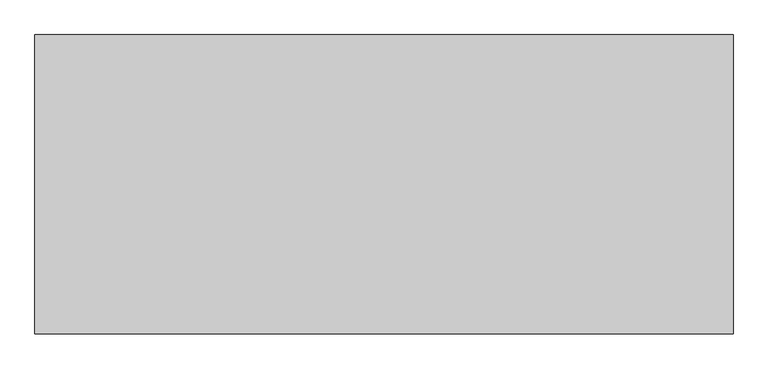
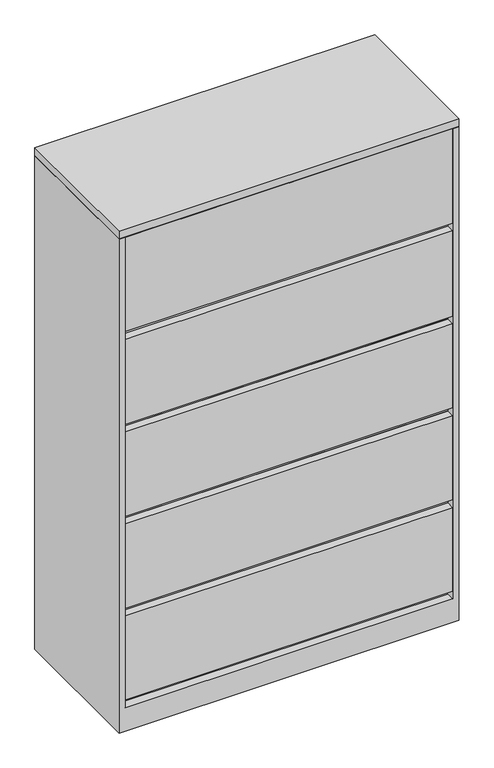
"""IFC4 building model written with IfcOpenShell, lengths in millimetres: furniture geometry, Steelcase - 900 Series - Storage - Lateral File With Roll Out Shelf - Flush Steel : 65 1/2H x 42W."""

from ifc_helpers import new_model, si_unit, frame, origin, place, context, project, spatial, polyline, outline, extrude, faceted_brep, source, transform, mapped, element, save


def furniture_8acac2fa(model_context):
    return source(origin(), model_context, "Body", "SolidModel", [
        faceted_brep([(1047.4960184, -25.2721219, 1636.776), (1047.4960184, -457.2, 1636.776), (1066.8, -457.2, 1636.776), (1066.8, 0.0, 1636.776), (0.0, 0.0, 1636.776), (0.0, -457.2, 1636.776), (19.3039998, -457.2, 1636.776), (19.3039998, -25.2721219, 1636.776), (0.0, -457.2, 0.0), (0.0, 0.0, 0.0), (1066.8, 0.0, 0.0), (1066.8, -457.2, 0.0), (1047.4960184, -25.2721219, 406.7048), (1047.4960184, -431.800255, 406.7048), (1047.4960184, -431.800255, 381.254), (1047.4960184, -25.2721219, 381.254), (1047.4960184, -25.2721219, 103.3780013), (1047.4960184, -430.275847, 103.3780013), (1047.4960184, -430.275847, 77.9779983), (1047.4960184, -457.2, 77.9779983), (19.3039998, -457.2, 77.9779983), (19.3039998, -430.275847, 77.9779983), (19.3039998, -430.275847, 103.3780013), (19.3039998, -25.2721219, 103.3780013), (19.3039998, -25.2721219, 381.254), (19.3039998, -431.800255, 381.254), (19.3039998, -431.800255, 406.7048), (19.3039998, -25.2721219, 406.7048)], [[[0, 1, 2, 3, 4, 5, 6, 7]], [[8, 9, 10, 11]], [[1, 0, 12, 13, 14, 15, 16, 17, 18, 19]], [[2, 1, 19, 20, 6, 5, 8, 11]], [[3, 2, 11, 10]], [[4, 3, 10, 9]], [[5, 4, 9, 8]], [[7, 6, 20, 21, 22, 23, 24, 25, 26, 27]], [[0, 7, 27, 12]], [[16, 15, 24, 23]], [[18, 21, 20, 19]], [[22, 17, 16, 23]], [[21, 18, 17, 22]], [[26, 13, 12, 27]], [[13, 26, 25, 14]], [[14, 25, 24, 15]]]),
        extrude(outline(polyline([(1045.9722015, -457.2), (20.8289612, -457.2), (20.8289612, -431.800255), (1045.9722015, -431.800255), (1045.9722015, -457.2)])), frame((0.0, 0.0, 1323.975), z_axis=(0.0, 0.0, 1.0), x_axis=(1.0, 0.0, 0.0)), (0.0, 0.0, 1.0), 312.801),
        extrude(outline(polyline([(1047.4960184, -25.2721219), (1047.4960184, -431.800255), (19.3039998, -431.800255), (19.3039998, -25.2721219), (1047.4960184, -25.2721219)])), frame((0.0, 0.0, 686.1048), z_axis=(0.0, 0.0, 1.0), x_axis=(1.0, 0.0, 0.0)), (0.0, 0.0, 1.0), 25.4),
        extrude(outline(polyline([(1045.9722015, -457.2), (20.8289612, -457.2), (20.8289612, -431.800255), (1045.9722015, -431.800255), (1045.9722015, -457.2)])), frame((0.0, 0.0, 1016.3048), z_axis=(0.0, 0.0, 1.0), x_axis=(1.0, 0.0, 0.0)), (0.0, 0.0, 1.0), 282.2702),
        extrude(outline(polyline([(1045.9722015, -457.2), (20.8289612, -457.2), (20.8289612, -431.800255), (1045.9722015, -431.800255), (1045.9722015, -457.2)])), frame((0.0, 0.0, 711.5048), z_axis=(0.0, 0.0, 1.0), x_axis=(1.0, 0.0, 0.0)), (0.0, 0.0, 1.0), 279.4),
        extrude(outline(polyline([(1047.4960184, -25.2721219), (1047.4960184, -431.800255), (19.3039998, -431.800255), (19.3039998, -25.2721219), (1047.4960184, -25.2721219)])), frame((0.0, 0.0, 1298.575), z_axis=(0.0, 0.0, 1.0), x_axis=(1.0, 0.0, 0.0)), (0.0, 0.0, 1.0), 25.4),
        extrude(outline(polyline([(1047.4960184, -25.2721219), (1047.4960184, -431.800255), (19.3039998, -431.800255), (19.3039998, -25.2721219), (1047.4960184, -25.2721219)])), frame((0.0, 0.0, 990.9048), z_axis=(0.0, 0.0, 1.0), x_axis=(1.0, 0.0, 0.0)), (0.0, 0.0, 1.0), 25.4),
        faceted_brep([(1066.8, 0.0, 1663.7), (0.0, 0.0, 1663.7), (0.0, -457.2, 1663.7), (1066.8, -457.2, 1663.7), (1066.8, 0.0, 1638.2999516), (1066.8, -457.2, 1638.2999516), (0.0, -457.2, 1638.2999516), (0.0, 0.0, 1638.2999516), (1047.4960184, -25.2721219, 1638.2999516), (20.8289612, -25.2721219, 1638.2999516), (20.8289612, -415.9241219, 1638.2999516), (1047.4960184, -415.9241219, 1638.2999516), (1047.4960184, -25.2721219, 1636.776), (1047.4960184, -415.9241219, 1636.776), (20.8289612, -415.9241219, 1636.776), (20.8289612, -25.2721219, 1636.776)], [[[0, 1, 2, 3]], [[4, 5, 6, 7], [8, 9, 10, 11]], [[1, 0, 4, 7]], [[2, 1, 7, 6]], [[3, 2, 6, 5]], [[0, 3, 5, 4]], [[12, 13, 14, 15]], [[12, 15, 9, 8]], [[15, 14, 10, 9]], [[14, 13, 11, 10]], [[13, 12, 8, 11]]]),
        extrude(outline(polyline([(1045.9722015, -457.2), (20.8289612, -457.2), (20.8289612, -431.800255), (1045.9722015, -431.800255), (1045.9722015, -457.2)])), frame((0.0, 0.0, 103.3780013), z_axis=(0.0, 0.0, 1.0), x_axis=(1.0, 0.0, 0.0)), (0.0, 0.0, 1.0), 277.8759987),
        extrude(outline(polyline([(1045.9722015, -457.2), (20.8289612, -457.2), (20.8289612, -431.800255), (1045.9722015, -431.800255), (1045.9722015, -457.2)])), frame((0.0, 0.0, 406.7048), z_axis=(0.0, 0.0, 1.0), x_axis=(1.0, 0.0, 0.0)), (0.0, 0.0, 1.0), 279.4),
    ])


if __name__ == "__main__":
    model = new_model("IFC4")
    model_context = context("Model", 3, world=origin())
    ifc_project = project(units=[si_unit("LENGTHUNIT", "METRE", prefix="MILLI")], contexts=[model_context])
    site = spatial("IfcSite", under=ifc_project)
    building = spatial("IfcBuilding", under=site)
    placement = place(None, origin())
    furniture_shape = furniture_8acac2fa(model_context)
    element("IfcFurniture", 1, ObjectType="Steelcase - 900 Series - Storage - Lateral File With Roll Out Shelf - Flush Steel : 65 1/2H x 42W", at=placement, inside=building, context=model_context, shape_type="MappedRepresentation", body=[
        mapped(furniture_shape, transform((0.0, 0.0, 0.0), x_axis=(1.0, 0.0, 0.0), y_axis=(0.0, 1.0, 0.0), z_axis=(0.0, 0.0, 1.0))),
    ])
    save(model, "model.ifc")
